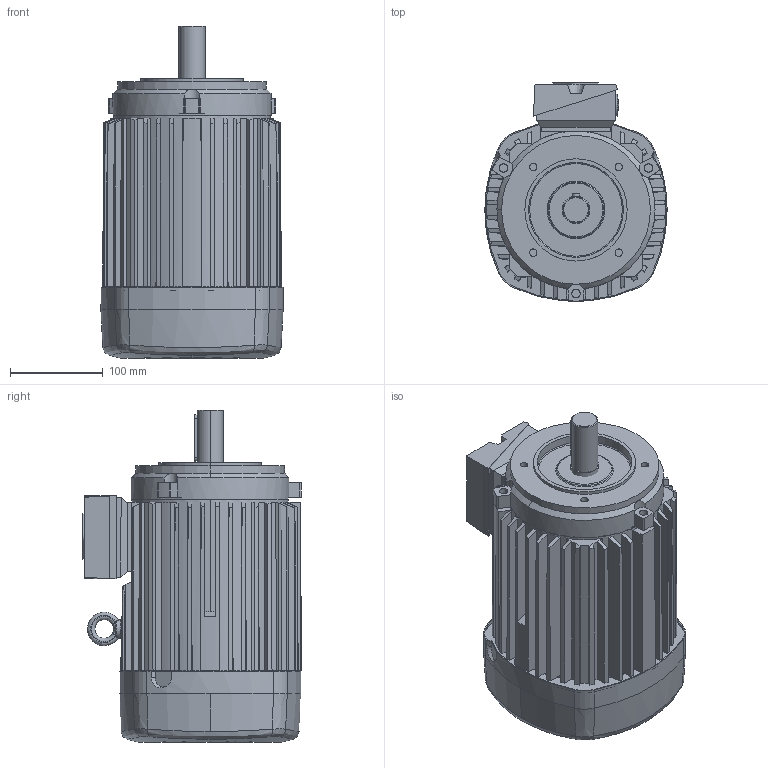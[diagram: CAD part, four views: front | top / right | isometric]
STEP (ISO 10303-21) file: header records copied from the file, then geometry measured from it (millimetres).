
FILE_DESCRIPTION (( 'STEP AP214' ), '1' );
FILE_NAME ('IE3-W41R100LY2_B14FT130.STEP', '2024-10-22T06:51:21', ( '' ), ( '' ), 'SwSTEP 2.0', 'SolidWorks 2023', '' );
FILE_SCHEMA (( 'AUTOMOTIVE_DESIGN' ));
Length unit declared in the file: millimetre
Products named in the file (10): LF_FT_klein_LF11 FT130; Verschlussschraube_M20; IE3-W41R100LY2_B14FT130; LHB_Kat_LHB10; KD05_Kat; Ringschraube_M8; KA05_komplett_Kat_VSS_2xM20; G100S_Kat; WE_Kat_28x60 (BG112); KA05_Kat
Assembly tree (10 placements, depth 3):
  IE3-W41R100LY2_B14FT130
    G100S_Kat
    LHB_Kat_LHB10
    KA05_komplett_Kat_VSS_2xM20
      KA05_Kat
      KD05_Kat
      Verschlussschraube_M20  x2
    Ringschraube_M8
    WE_Kat_28x60 (BG112)
    LF_FT_klein_LF11 FT130
Bounding box: 196 x 234.93 x 357 mm (x, y, z)
Volume: 8356274.6 mm3; surface area: 530848.3 mm2
Topology: 9 solids, 9 shells, 481 faces, 1255 edges, 806 vertices
Faces by surface type: plane 265, cylinder 102, cone 84, bspline 16, torus 10, sphere 4
Entity records: 16294 total; most frequent: CARTESIAN_POINT 4912, ORIENTED_EDGE 2432, DIRECTION 2213, EDGE_CURVE 1216, AXIS2_PLACEMENT_3D 809, VERTEX_POINT 780, VECTOR 595, LINE 595
